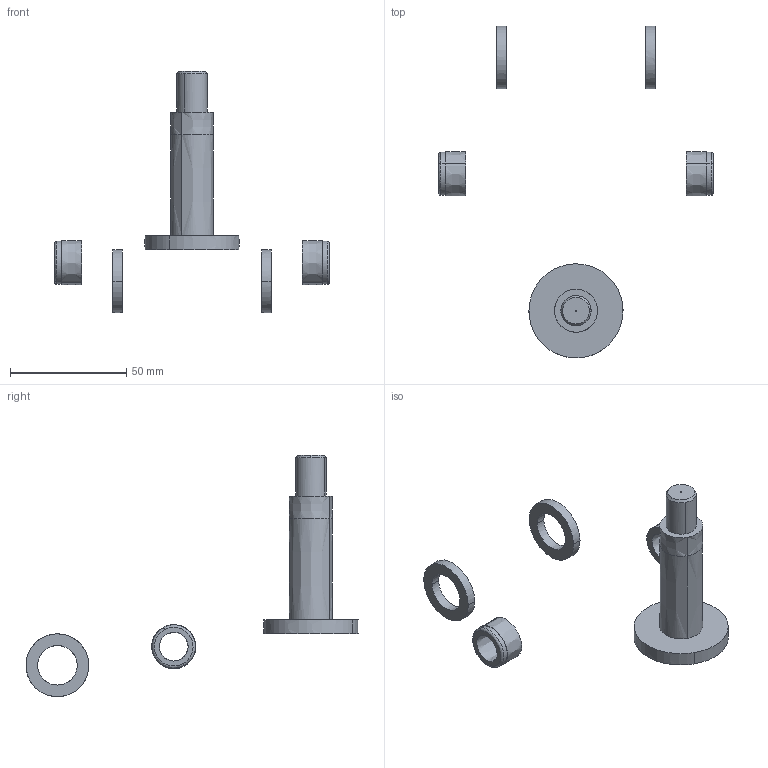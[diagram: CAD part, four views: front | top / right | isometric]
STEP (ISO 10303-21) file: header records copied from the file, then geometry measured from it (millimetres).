
FILE_DESCRIPTION (( 'STEP AP214' ), '1' );
FILE_NAME ('KTU-150WK-GS-50.STEP', '2018-08-30T07:49:02', ( '' ), ( '' ), 'SwSTEP 2.0', 'SolidWorks 2010', '' );
FILE_SCHEMA (( 'AUTOMOTIVE_DESIGN' ));
Length unit declared in the file: millimetre
Products named in the file (1): KTU-150WK-GS-50
Bounding box: 118.2 x 142.74 x 103.76 mm (x, y, z)
Volume: 30672.8 mm3; surface area: 12539.8 mm2
Topology: 5 solids, 5 shells, 50 faces, 182 edges, 145 vertices
Faces by surface type: bspline 34, plane 14, cone 2
Entity records: 6912 total; most frequent: CARTESIAN_POINT 5368, ORIENTED_EDGE 360, EDGE_CURVE 180, B_SPLINE_CURVE_WITH_KNOTS 146, VERTEX_POINT 145, DIRECTION 70, EDGE_LOOP 63, FACE_OUTER_BOUND 50
